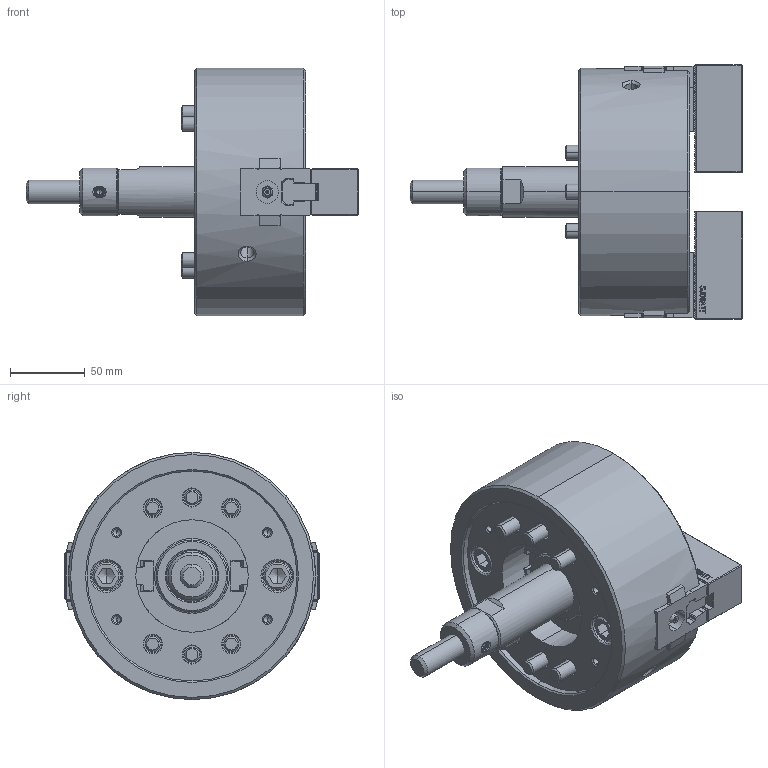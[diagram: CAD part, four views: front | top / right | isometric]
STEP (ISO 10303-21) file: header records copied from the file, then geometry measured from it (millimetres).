
FILE_DESCRIPTION (( 'STEP AP214' ), '1' );
FILE_NAME ('DT1_NLT06_OUTSIDE_VIEW_UC.STEP', '2026-03-23T00:23:42', ( '' ), ( '' ), 'SwSTEP 2.0', 'SolidWorks 2022', '' );
FILE_SCHEMA (( 'AUTOMOTIVE_DESIGN' ));
Length unit declared in the file: millimetre
Products named in the file (11): DT1_NLT06_OUTSIDE_VIEW_UC; DT1_NLT06_M10x30^DT1_NLT06; DT1_NLT06_BASE^DT1_NLT06; DT1_NLT06_DN^DT1_NLT06; DT1_NLT06_SOFTJAW^DT1_NLT06; DT1_NLT06_M10x70^DT1_NLT06; DT1_NLT06_TNUT^DT1_NLT06; DT1_NLT06_DRAWSCREW^DT1_NLT06; Copy of P31410^DT1_NLT06; DT1_NLT06_M5x12^DT1_NLT06; DT1_NLT06_COVER^DT1_NLT06
Assembly tree (23 placements, depth 2):
  DT1_NLT06_OUTSIDE_VIEW_UC
    DT1_NLT06_SOFTJAW^DT1_NLT06  x2
    DT1_NLT06_TNUT^DT1_NLT06  x2
    DT1_NLT06_COVER^DT1_NLT06
    DT1_NLT06_DRAWSCREW^DT1_NLT06
    Copy of P31410^DT1_NLT06
    DT1_NLT06_DN^DT1_NLT06
    DT1_NLT06_BASE^DT1_NLT06
    DT1_NLT06_M10x70^DT1_NLT06  x6
    DT1_NLT06_M10x30^DT1_NLT06  x4
    DT1_NLT06_M5x12^DT1_NLT06  x4
Bounding box: 221.5 x 169.5 x 165 mm (x, y, z)
Volume: 1585309.7 mm3; surface area: 245607.7 mm2
Topology: 23 solids, 23 shells, 3239 faces, 9031 edges, 5874 vertices
Faces by surface type: plane 1831, cylinder 795, cone 331, bspline 236, torus 42, sphere 4
Entity records: 82236 total; most frequent: CARTESIAN_POINT 24748, ORIENTED_EDGE 12960, DIRECTION 10207, EDGE_CURVE 6480, VECTOR 4419, LINE 4419, VERTEX_POINT 4233, AXIS2_PLACEMENT_3D 2894
